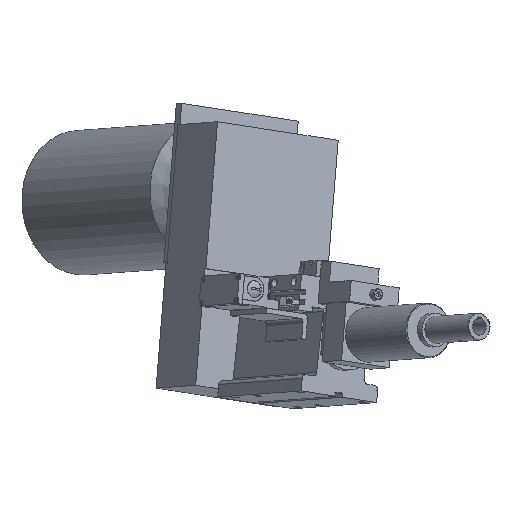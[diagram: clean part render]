
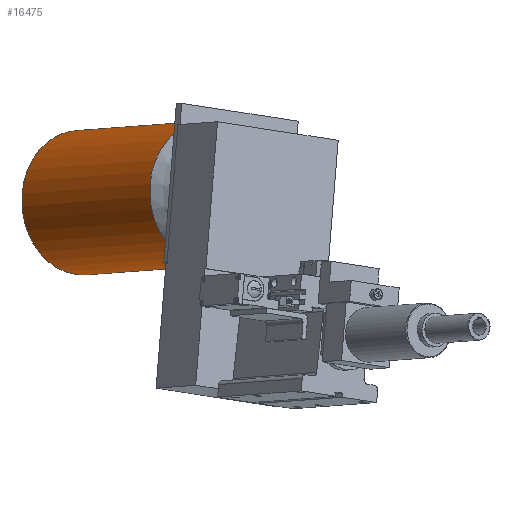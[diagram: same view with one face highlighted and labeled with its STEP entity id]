
A CAD part, front view. The second image highlights one B-rep face of the part: STEP entity #16475.
In plain terms, the highlighted cylindrical face has radius 86 mm (diameter 172 mm), a full revolution.
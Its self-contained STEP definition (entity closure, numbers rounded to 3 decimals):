
#16448=CARTESIAN_POINT('',(-180.52,299.17,279.067));
#16449=DIRECTION('',(0.574,-0.818,0.042));
#16450=DIRECTION('',(0.815,0.566,-0.125));
#16451=AXIS2_PLACEMENT_3D('',#16448,#16449,#16450);
#16452=CYLINDRICAL_SURFACE('',#16451,86.);
#16453=CARTESIAN_POINT('',(-34.35,239.504,273.904));
#16454=VERTEX_POINT('',#16453);
#16455=CARTESIAN_POINT('',(-104.432,190.841,284.695));
#16456=DIRECTION('',(0.574,-0.818,0.042));
#16457=DIRECTION('',(0.815,0.566,-0.125));
#16458=AXIS2_PLACEMENT_3D('',#16455,#16456,#16457);
#16459=CIRCLE('',#16458,86.);
#16460=EDGE_CURVE('',#16454,#16454,#16459,.T.);
#16461=ORIENTED_EDGE('',*,*,#16460,.F.);
#16462=EDGE_LOOP('',(#16461));
#16463=FACE_OUTER_BOUND('',#16462,.T.);
#16464=CARTESIAN_POINT('',(-186.526,456.162,262.648));
#16465=VERTEX_POINT('',#16464);
#16466=CARTESIAN_POINT('',(-256.608,407.499,273.439));
#16467=DIRECTION('',(0.574,-0.818,0.042));
#16468=DIRECTION('',(0.815,0.566,-0.125));
#16469=AXIS2_PLACEMENT_3D('',#16466,#16467,#16468);
#16470=CIRCLE('',#16469,86.);
#16471=EDGE_CURVE('',#16465,#16465,#16470,.T.);
#16472=ORIENTED_EDGE('',*,*,#16471,.T.);
#16473=EDGE_LOOP('',(#16472));
#16474=FACE_BOUND('',#16473,.T.);
#16475=ADVANCED_FACE('',(#16463,#16474),#16452,.T.);
